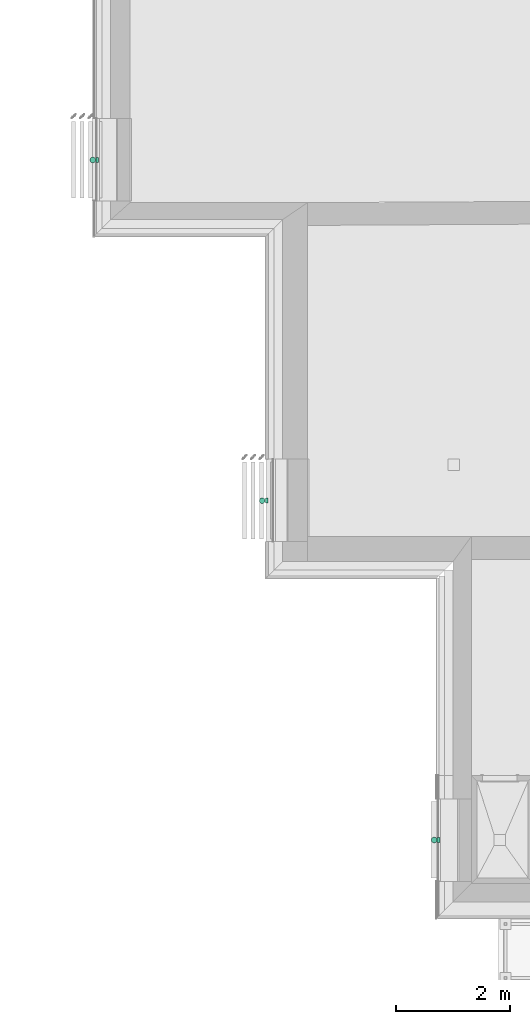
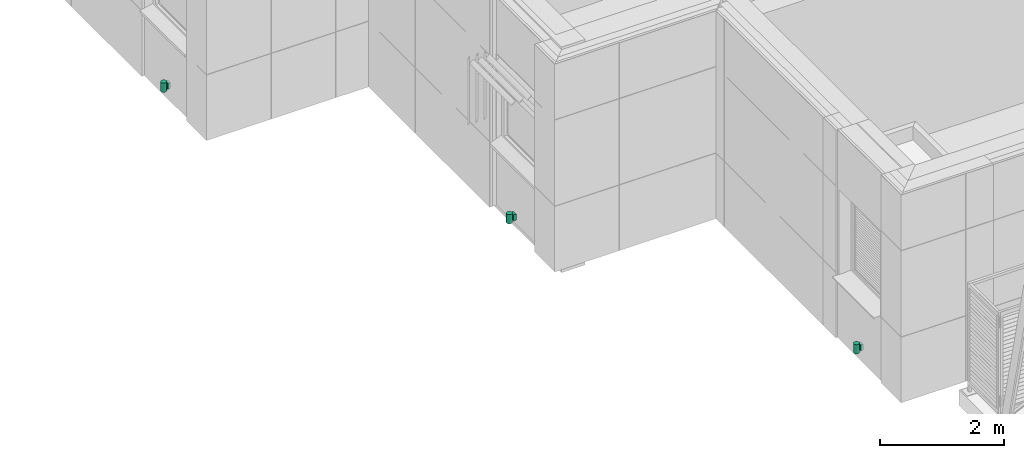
# One storey, part 180 of 418: 6 flow terminals.
"""IFC2X3 building model written with IfcOpenShell, lengths in millimetres."""

from ifc_helpers import new_model, entity, si_unit, converted_unit, derived_unit, money_unit, point, direction, frame, frame_2d, origin_with_axes, place, context, subcontext, project, spatial, polyline, circle_curve, parameter, trimmed, segment, composite_curve, outline, extrude, material, type_object, element, save


model = new_model("IFC2X3")

# Units and contexts
model_context = context("Model", 3, precision=0.01, world=origin_with_axes(), true_north=direction((0.0, 1.0)))
body_context = subcontext(model_context, "Body", "Model", "MODEL_VIEW")
ifc_project = project(units=[si_unit("LENGTHUNIT", "METRE", prefix="MILLI"), si_unit("AREAUNIT", "SQUARE_METRE"), si_unit("VOLUMEUNIT", "CUBIC_METRE"), converted_unit("PLANEANGLEUNIT", "DEGREE", entity("IfcPlaneAngleMeasure", 0.0174532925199), si_unit("PLANEANGLEUNIT", "RADIAN"), dimensions=[0, 0, 0, 0, 0, 0, 0]), si_unit("SOLIDANGLEUNIT", "STERADIAN"), money_unit("EUR"), converted_unit("TIMEUNIT", "Year", entity("IfcTimeMeasure", 31556926.0), si_unit("TIMEUNIT", "SECOND"), dimensions=[0, 0, 1, 0, 0, 0, 0]), si_unit("MASSUNIT", "GRAM", prefix="KILO"), si_unit("THERMODYNAMICTEMPERATUREUNIT", "DEGREE_CELSIUS"), si_unit("LUMINOUSINTENSITYUNIT", "LUMEN"), si_unit("ENERGYUNIT", "JOULE", prefix="MEGA"), derived_unit("THERMALCONDUCTANCEUNIT", [(si_unit("POWERUNIT", "WATT"), 1), (si_unit("LENGTHUNIT", "METRE"), -1), (si_unit("THERMODYNAMICTEMPERATUREUNIT", "KELVIN"), -1)]), derived_unit("SPECIFICHEATCAPACITYUNIT", [(si_unit("ENERGYUNIT", "JOULE"), 1), (si_unit("MASSUNIT", "GRAM", prefix="KILO"), -1), (si_unit("THERMODYNAMICTEMPERATUREUNIT", "KELVIN"), -1)]), derived_unit("MASSDENSITYUNIT", [(si_unit("MASSUNIT", "GRAM", prefix="KILO"), 1), (si_unit("VOLUMEUNIT", "CUBIC_METRE"), -1)])], contexts=[model_context])

# Site, building, storey
site_placement = place(None, origin_with_axes())
site = spatial("IfcSite", under=ifc_project, at=site_placement, Name="Paldiski mnt 245/1, Tallinn, Harjumaa", CompositionType="COMPLEX")
building_placement = place(site_placement, origin_with_axes())
building = spatial("IfcBuilding", under=site, at=building_placement, Name="RKAS Hoone üldnimetus (kasutust iseloomustav) -> IFC Project Manager -> SOLIBRI", CompositionType="ELEMENT")
storey_placement = place(building_placement, origin_with_axes())
storey = spatial("IfcBuildingStorey", under=building, at=storey_placement, Name="Esimene korrus", CompositionType="ELEMENT", Elevation=0.0)

# Flow terminals
ifc_material = material(Name="RAL7016")
light_fixture_type_1 = type_object("IfcLightFixtureType", Name="RAL7016 180", PredefinedType="NOTDEFINED")
for number, where, z_axis, x_axis in (
    (1, (-60013.9999232, 6861.01141079, 350.0), (0.0, 0.0, 1.0), (1.0, 0.0, 0.0)),
    (2, (-62993.0, 12850.8288942, 350.0), (0.0, 0.0, 1.0), (1.0, 0.0, 0.0)),
    (3, (-56992.9999767, 895.000023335, 350.0), (0.0, 0.0, 1.0), (1.0, 0.0, 0.0)),
):
    element("IfcFlowTerminal", number, at=place(storey_placement, frame(where, z_axis=z_axis, x_axis=x_axis)), inside=storey, type_object=light_fixture_type_1, material=ifc_material, Name="Välisvalgusti", ObjectType="Light Fixture", context=body_context, shape_type="SweptSolid", body=[
        extrude(outline(composite_curve([segment(trimmed(circle_curve(frame_2d((-50.0, 0.0), x_axis=(1.0, 0.0)), 50.0), [point((0.0, 0.0)), parameter(0.0)], [point((-100.0, 0.0)), parameter(180.0)], True, "CARTESIAN"), True, "CONTINUOUS"), segment(trimmed(circle_curve(frame_2d((-50.0, 0.0), x_axis=(-1.0, 0.0)), 50.0), [point((-100.0, 0.0)), parameter(0.0)], [point((0.0, 0.0)), parameter(180.0)], True, "CARTESIAN"), True, "CONTINUOUS")], self_intersect=False)), frame((0.0, 0.0, -180.0), z_axis=(0.0, 0.0, 1.0), x_axis=(1.0, 0.0, 0.0)), (0.0, 0.0, 1.0), 180.0),
    ])
light_fixture_type_2 = type_object("IfcLightFixtureType", Name="RAL7016 120", PredefinedType="NOTDEFINED")
for number, where, z_axis, x_axis in (
    (4, (-60010.9999232, 6816.01141079, 320.0), (0.0, 0.0, 1.0), (1.0, 0.0, 0.0)),
    (5, (-62990.0, 12805.8288942, 320.0), (0.0, 0.0, 1.0), (1.0, 0.0, 0.0)),
    (6, (-56989.9999767, 850.000023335, 320.0), (0.0, 0.0, 1.0), (1.0, 0.0, 0.0)),
):
    element("IfcFlowTerminal", number, at=place(storey_placement, frame(where, z_axis=z_axis, x_axis=x_axis)), inside=storey, type_object=light_fixture_type_2, material=ifc_material, Name="Välisvalgusti", ObjectType="Light Fixture", context=body_context, shape_type="SweptSolid", body=[
        extrude(outline(polyline([(0.0, 0.0), (50.0, 0.0), (50.0, 90.0), (0.0, 90.0), (0.0, 0.0)])), frame((0.0, 0.0, -120.0), z_axis=(0.0, 0.0, 1.0), x_axis=(1.0, 0.0, 0.0)), (0.0, 0.0, 1.0), 120.0),
    ])

save(model, "model.ifc")
